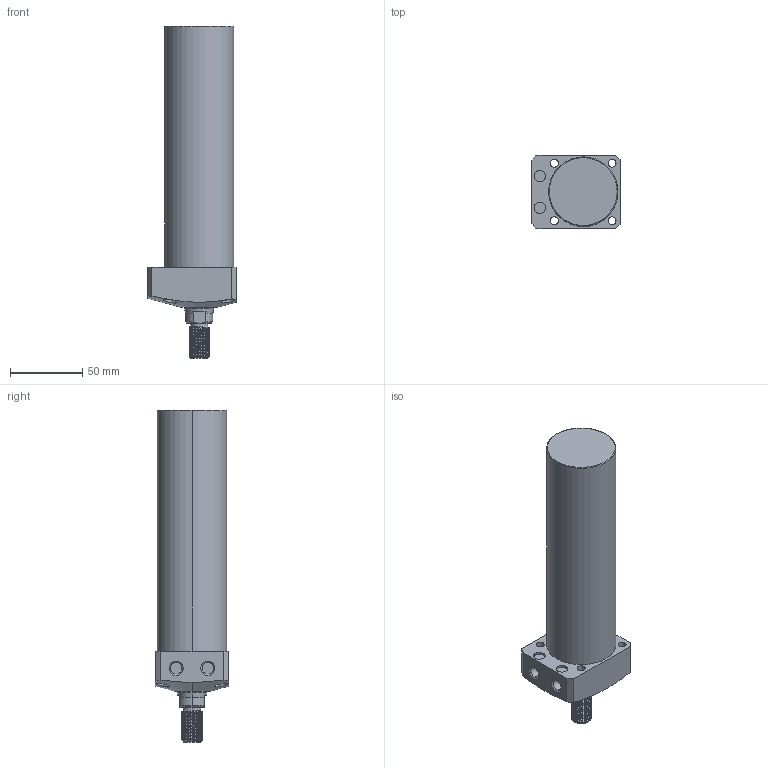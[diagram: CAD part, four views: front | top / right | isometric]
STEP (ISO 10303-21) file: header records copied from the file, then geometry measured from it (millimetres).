
FILE_DESCRIPTION (( 'STEP AP203' ), '1' );
FILE_NAME ('CLL-048CT-140.STEP', '2020-01-08T10:17:26', ( '' ), ( '' ), 'SwSTEP 2.0', 'SolidWorks 2015', '' );
FILE_SCHEMA (( 'CONFIG_CONTROL_DESIGN' ));
Length unit declared in the file: millimetre
Products named in the file (1): CLL-048CT-140
Bounding box: 61 x 51 x 230 mm (x, y, z)
Volume: 381196 mm3; surface area: 41237.3 mm2
Topology: 1 solids, 1 shells, 122 faces, 310 edges, 201 vertices
Faces by surface type: cylinder 77, plane 24, cone 17, torus 2, bspline 2
Entity records: 6488 total; most frequent: CARTESIAN_POINT 3687, ORIENTED_EDGE 620, DIRECTION 522, EDGE_CURVE 310, AXIS2_PLACEMENT_3D 206, VERTEX_POINT 201, EDGE_LOOP 141, FACE_OUTER_BOUND 122
